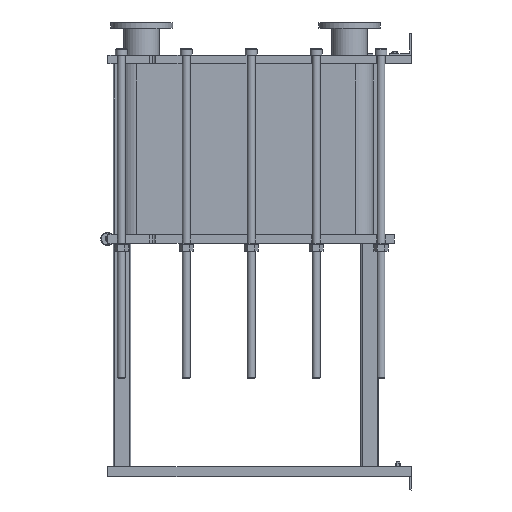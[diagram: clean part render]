
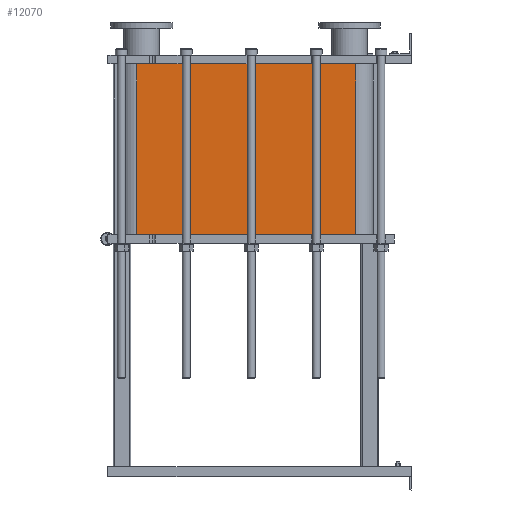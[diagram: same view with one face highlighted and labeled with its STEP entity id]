
A CAD part, left-side view. The second image highlights one B-rep face of the part: STEP entity #12070.
In plain terms, the highlighted planar face has unit normal (-1, 0, 0).
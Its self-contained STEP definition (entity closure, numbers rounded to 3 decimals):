
#1064=LINE('',#21140,#2164);
#1065=LINE('',#21144,#2165);
#1066=LINE('',#21146,#2166);
#1067=LINE('',#21147,#2167);
#2164=VECTOR('',#15790,10.);
#2165=VECTOR('',#15795,10.);
#2166=VECTOR('',#15796,10.);
#2167=VECTOR('',#15797,10.);
#3304=FACE_OUTER_BOUND('',#4091,.T.);
#4091=EDGE_LOOP('',(#9793,#9794,#9795,#9796));
#5677=VERTEX_POINT('',#21137);
#5678=VERTEX_POINT('',#21139);
#5679=VERTEX_POINT('',#21143);
#5680=VERTEX_POINT('',#21145);
#7118=EDGE_CURVE('',#5678,#5677,#1064,.T.);
#7120=EDGE_CURVE('',#5677,#5679,#1065,.T.);
#7121=EDGE_CURVE('',#5680,#5679,#1066,.T.);
#7122=EDGE_CURVE('',#5680,#5678,#1067,.T.);
#9793=ORIENTED_EDGE('',*,*,#7120,.T.);
#9794=ORIENTED_EDGE('',*,*,#7121,.F.);
#9795=ORIENTED_EDGE('',*,*,#7122,.T.);
#9796=ORIENTED_EDGE('',*,*,#7118,.T.);
#11441=PLANE('',#13191);
#12070=ADVANCED_FACE('',(#3304),#11441,.T.);
#13191=AXIS2_PLACEMENT_3D('',#21142,#15793,#15794);
#15790=DIRECTION('',(0.,0.,-1.));
#15793=DIRECTION('center_axis',(-1.,0.,0.));
#15794=DIRECTION('ref_axis',(0.,1.,0.));
#15795=DIRECTION('',(0.,-1.,0.));
#15796=DIRECTION('',(0.,0.,-1.));
#15797=DIRECTION('',(0.,1.,0.));
#21137=CARTESIAN_POINT('',(-248.152,1243.818,-772.8));
#21139=CARTESIAN_POINT('',(-248.152,1243.818,0.));
#21140=CARTESIAN_POINT('',(-248.152,1243.818,0.));
#21142=CARTESIAN_POINT('Origin',(-248.152,251.818,0.));
#21143=CARTESIAN_POINT('',(-248.152,251.818,-772.8));
#21144=CARTESIAN_POINT('',(-248.152,499.818,-772.8));
#21145=CARTESIAN_POINT('',(-248.152,251.818,0.));
#21146=CARTESIAN_POINT('',(-248.152,251.818,0.));
#21147=CARTESIAN_POINT('',(-248.152,251.818,0.));
